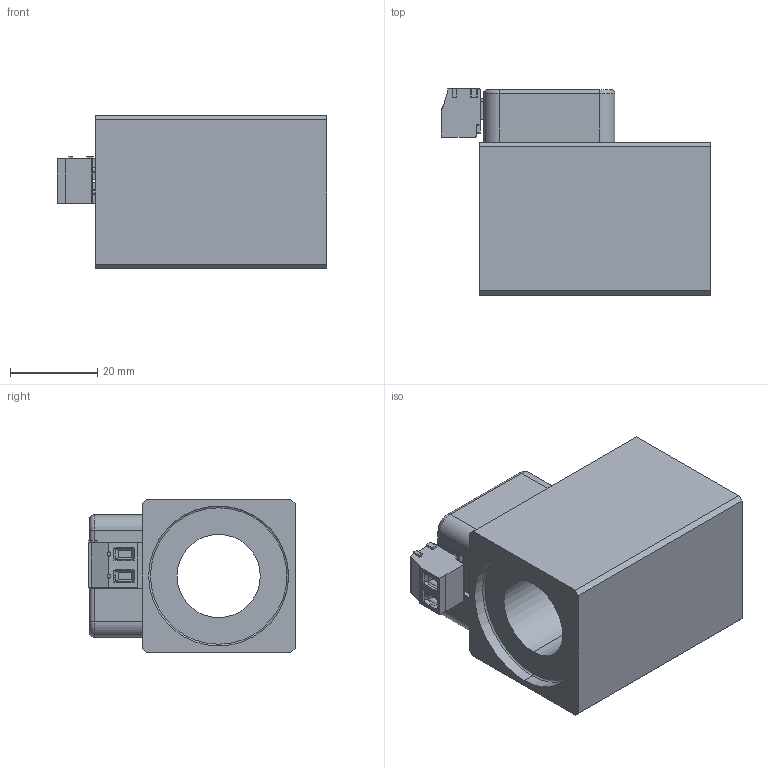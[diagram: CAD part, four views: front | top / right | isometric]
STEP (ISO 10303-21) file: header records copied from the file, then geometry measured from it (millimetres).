
FILE_DESCRIPTION (( 'STEP AP214' ), '1' );
FILE_NAME ('NXS35_19x50-M222a.STEP', '2015-07-28T14:17:14', ( '' ), ( '' ), 'SwSTEP 2.0', 'SolidWorks 2014', '' );
FILE_SCHEMA (( 'AUTOMOTIVE_DESIGN' ));
Length unit declared in the file: millimetre
Products named in the file (2): NXS35_19x50-M222a
Bounding box: 61.7 x 47.2 x 35 mm (x, y, z)
Volume: 58348 mm3; surface area: 15276.1 mm2
Topology: 1 solids, 3 shells, 460 faces, 1240 edges, 789 vertices
Faces by surface type: plane 217, cylinder 185, bspline 30, cone 14, torus 14
Entity records: 20271 total; most frequent: CARTESIAN_POINT 4007, ORIENTED_EDGE 2464, DIRECTION 2204, EDGE_CURVE 1232, VERTEX_POINT 789, LINE 764, VECTOR 764, AXIS2_PLACEMENT_3D 720
